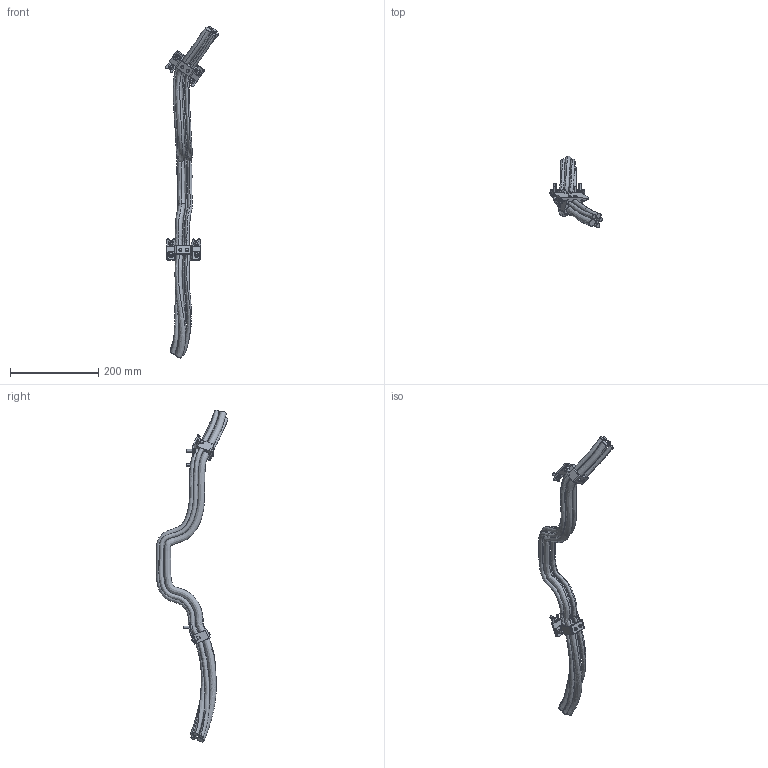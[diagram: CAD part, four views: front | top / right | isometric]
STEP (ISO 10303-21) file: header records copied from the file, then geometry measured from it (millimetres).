
FILE_DESCRIPTION (( 'STEP AP214' ), '1' );
FILE_NAME ('IRB2600_12_165_cables_link2_CAD_00.STEP', '2012-11-20T15:27:39', ( 'ABB' ), ( 'ABB' ), 'SwSTEP 2.0', 'SolidWorks 2010', '' );
FILE_SCHEMA (( 'AUTOMOTIVE_DESIGN' ));
Length unit declared in the file: millimetre
Products named in the file (1): IRB2600_12_165_cables_link2_CAD_00
Bounding box: 120.37 x 162.8 x 751.93 mm (x, y, z)
Volume: 502795.6 mm3; surface area: 201004.1 mm2
Topology: 23 solids, 25 shells, 475 faces, 1116 edges, 710 vertices
Faces by surface type: plane 219, cylinder 176, bspline 40, torus 24, cone 16
Entity records: 24979 total; most frequent: CARTESIAN_POINT 12324, DIRECTION 2254, ORIENTED_EDGE 2232, EDGE_CURVE 1116, AXIS2_PLACEMENT_3D 874, VERTEX_POINT 710, EDGE_LOOP 516, VECTOR 506
